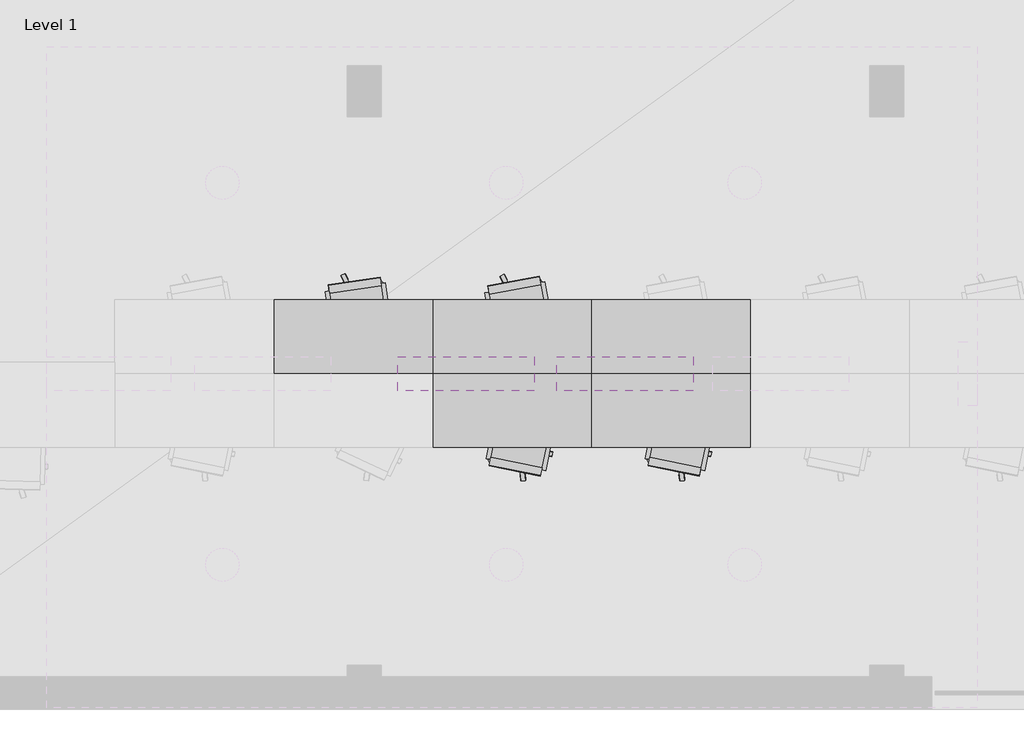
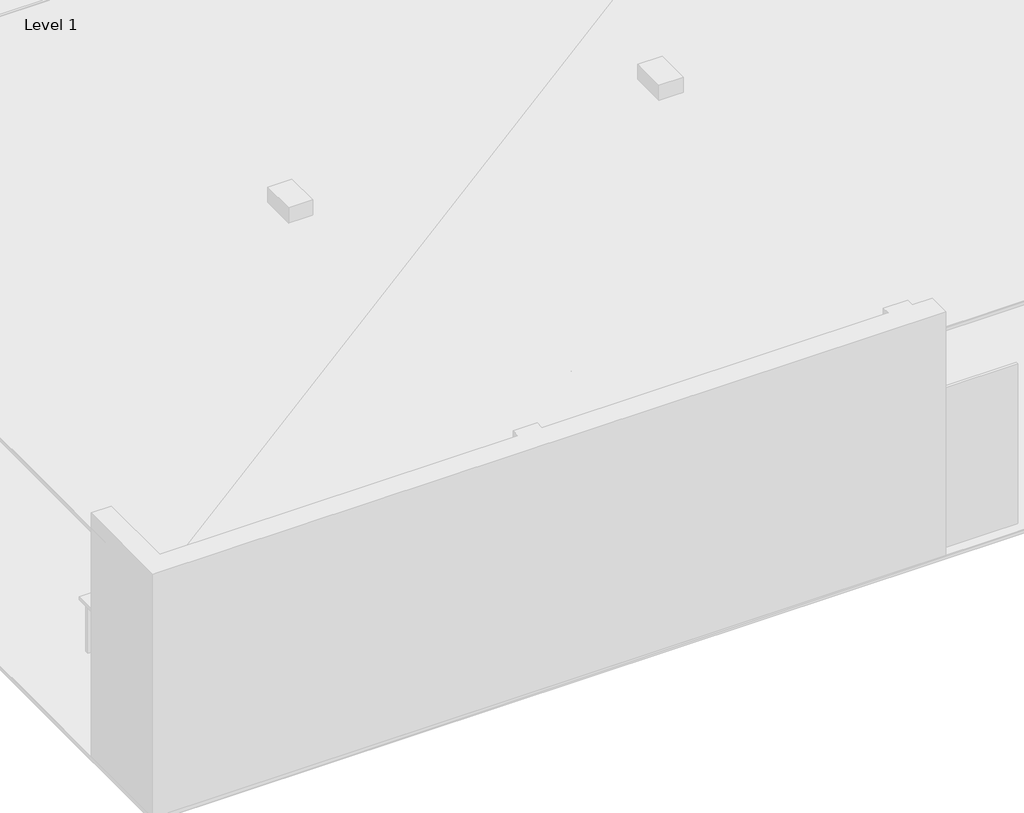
# One storey, part 2 of 14: 16 proxies.
"""IFC4 building model written with IfcOpenShell, lengths in millimetres."""

from ifc_helpers import new_model, si_unit, frame, origin, place, context, project, spatial, polyline, outline, extrude, element, save

model = new_model("IFC4")

# Units and contexts
model_context = context("Model", 3, world=origin())
ifc_project = project(units=[si_unit("LENGTHUNIT", "METRE", prefix="MILLI")], contexts=[model_context])

# Site, building, storey
site = spatial("IfcSite", under=ifc_project)
building = spatial("IfcBuilding", under=site)
storey = spatial("IfcBuildingStorey", under=building, Name="Level 1", Elevation=0.0)

# Proxies
placement = place(None, origin())
element("IfcBuildingElementProxy", 1, Name="Generic Models", at=placement, inside=storey, context=model_context, shape_type="SweptSolid", body=[
    extrude(outline(polyline([(5456.82621, 2957.967758), (6856.826305, 2957.967758), (6856.826305, 2307.967901), (5456.82621, 2307.967901), (5456.82621, 2957.967758)])), frame((0.0, 0.0, 709.999979), z_axis=(0.0, 0.0, 1.0), x_axis=(1.0, 0.0, 0.0)), (0.0, 0.0, 1.0), 40.000021),
])
element("IfcBuildingElementProxy", 2, Name="Generic Models", at=placement, inside=storey, context=model_context, shape_type="SweptSolid", body=[
    extrude(outline(polyline([(6856.826305, 2957.967758), (8256.826401, 2957.967758), (8256.826401, 2307.967901), (6856.826305, 2307.967901), (6856.826305, 2957.967758)])), frame((0.0, 0.0, 709.999979), z_axis=(0.0, 0.0, 1.0), x_axis=(1.0, 0.0, 0.0)), (0.0, 0.0, 1.0), 40.000021),
])
element("IfcBuildingElementProxy", 3, Name="Generic Models", at=placement, inside=storey, context=model_context, shape_type="SweptSolid", body=[
    extrude(outline(polyline([(4056.826115, 3607.967854), (5456.82621, 3607.967854), (5456.82621, 2957.967758), (4056.826115, 2957.967758), (4056.826115, 3607.967854)])), frame((0.0, 0.0, 709.999979), z_axis=(0.0, 0.0, 1.0), x_axis=(1.0, 0.0, 0.0)), (0.0, 0.0, 1.0), 40.000021),
])
element("IfcBuildingElementProxy", 4, Name="Generic Models", at=placement, inside=storey, context=model_context, shape_type="SweptSolid", body=[
    extrude(outline(polyline([(5456.82621, 3607.967854), (6856.826305, 3607.967854), (6856.826305, 2957.967758), (5456.82621, 2957.967758), (5456.82621, 3607.967854)])), frame((0.0, 0.0, 709.999979), z_axis=(0.0, 0.0, 1.0), x_axis=(1.0, 0.0, 0.0)), (0.0, 0.0, 1.0), 40.000021),
])
element("IfcBuildingElementProxy", 5, Name="Generic Models", at=placement, inside=storey, context=model_context, shape_type="SweptSolid", body=[
    extrude(outline(polyline([(6856.826305, 3607.967854), (8256.826401, 3607.967854), (8256.826401, 2957.967758), (6856.826305, 2957.967758), (6856.826305, 3607.967854)])), frame((0.0, 0.0, 709.999979), z_axis=(0.0, 0.0, 1.0), x_axis=(1.0, 0.0, 0.0)), (0.0, 0.0, 1.0), 40.000021),
])
element("IfcBuildingElementProxy", 6, Name="Generic Models", at=placement, inside=storey, context=model_context, shape_type="SweptSolid", body=[
    extrude(outline(polyline([(5152.470112, 2807.967901), (5152.470112, 3107.968092), (6352.469921, 3107.968092), (6352.469921, 2807.967901), (5152.470112, 2807.967901)])), frame((0.0, 0.0, 2910.000086), z_axis=(0.0, 0.0, 1.0), x_axis=(1.0, 0.0, 0.0)), (0.0, 0.0, 1.0), 39.999962),
])
element("IfcBuildingElementProxy", 7, Name="Generic Models", at=placement, inside=storey, context=model_context, shape_type="SweptSolid", body=[
    extrude(outline(polyline([(6552.470207, 2807.967901), (6552.470207, 3107.968092), (7752.470016, 3107.968092), (7752.470016, 2807.967901), (6552.470207, 2807.967901)])), frame((0.0, 0.0, 2910.000086), z_axis=(0.0, 0.0, 1.0), x_axis=(1.0, 0.0, 0.0)), (0.0, 0.0, 1.0), 39.999962),
])
element("IfcBuildingElementProxy", 8, Name="Generic Models", at=placement, inside=storey, context=model_context, shape_type="SweptSolid", body=[
    extrude(outline(polyline([(6804.326534, 2382.967949), (6759.326458, 2382.967949), (6759.326458, 2882.96771), (6804.326534, 2882.96771), (6804.326534, 2382.967949)])), frame((0.0, 0.0, 639.999986), z_axis=(0.0, 0.0, 1.0), x_axis=(1.0, 0.0, 0.0)), (0.0, 0.0, 1.0), 69.999993),
    extrude(outline(polyline([(5554.326057, 2382.967949), (5509.325981, 2382.967949), (5509.325981, 2882.96771), (5554.326057, 2882.96771), (5554.326057, 2382.967949)])), frame((0.0, 0.0, 639.999986), z_axis=(0.0, 0.0, 1.0), x_axis=(1.0, 0.0, 0.0)), (0.0, 0.0, 1.0), 69.999993),
    extrude(outline(polyline([(5531.826019, 2860.467672), (5531.826019, 2905.467749), (6781.826496, 2905.467749), (6781.826496, 2860.467672), (5531.826019, 2860.467672)])), frame((0.0, 0.0, 639.999986), z_axis=(0.0, 0.0, 1.0), x_axis=(1.0, 0.0, 0.0)), (0.0, 0.0, 1.0), 69.999993),
    extrude(outline(polyline([(5531.826019, 2360.467911), (5531.826019, 2405.467987), (6781.826496, 2405.467987), (6781.826496, 2360.467911), (5531.826019, 2360.467911)])), frame((0.0, 0.0, 639.999986), z_axis=(0.0, 0.0, 1.0), x_axis=(1.0, 0.0, 0.0)), (0.0, 0.0, 1.0), 69.999993),
    extrude(outline(polyline([(6757.451534, 2858.592749), (6757.451534, 2907.342672), (6806.201458, 2907.342672), (6806.201458, 2858.592749), (6757.451534, 2858.592749)])), frame((0.0, 0.0, 50.000001), z_axis=(0.0, 0.0, 1.0), x_axis=(1.0, 0.0, 0.0)), (0.0, 0.0, 1.0), 659.999978),
    extrude(outline(polyline([(6757.451534, 2358.592987), (6757.451534, 2407.342911), (6806.201458, 2407.342911), (6806.201458, 2358.592987), (6757.451534, 2358.592987)])), frame((0.0, 0.0, 50.000001), z_axis=(0.0, 0.0, 1.0), x_axis=(1.0, 0.0, 0.0)), (0.0, 0.0, 1.0), 659.999978),
    extrude(outline(polyline([(5507.451057, 2858.592749), (5507.451057, 2907.342672), (5556.200981, 2907.342672), (5556.200981, 2858.592749), (5507.451057, 2858.592749)])), frame((0.0, 0.0, 50.000001), z_axis=(0.0, 0.0, 1.0), x_axis=(1.0, 0.0, 0.0)), (0.0, 0.0, 1.0), 659.999978),
    extrude(outline(polyline([(5507.451057, 2358.592987), (5507.451057, 2407.342911), (5556.200981, 2407.342911), (5556.200981, 2358.592987), (5507.451057, 2358.592987)])), frame((0.0, 0.0, 50.000001), z_axis=(0.0, 0.0, 1.0), x_axis=(1.0, 0.0, 0.0)), (0.0, 0.0, 1.0), 659.999978),
])
element("IfcBuildingElementProxy", 9, Name="Generic Models", at=placement, inside=storey, context=model_context, shape_type="SweptSolid", body=[
    extrude(outline(polyline([(8204.32663, 2382.967949), (8159.326553, 2382.967949), (8159.326553, 2882.96771), (8204.32663, 2882.96771), (8204.32663, 2382.967949)])), frame((0.0, 0.0, 639.999986), z_axis=(0.0, 0.0, 1.0), x_axis=(1.0, 0.0, 0.0)), (0.0, 0.0, 1.0), 69.999993),
    extrude(outline(polyline([(6954.326153, 2382.967949), (6909.326077, 2382.967949), (6909.326077, 2882.96771), (6954.326153, 2882.96771), (6954.326153, 2382.967949)])), frame((0.0, 0.0, 639.999986), z_axis=(0.0, 0.0, 1.0), x_axis=(1.0, 0.0, 0.0)), (0.0, 0.0, 1.0), 69.999993),
    extrude(outline(polyline([(6931.826115, 2860.467672), (6931.826115, 2905.467749), (8181.826591, 2905.467749), (8181.826591, 2860.467672), (6931.826115, 2860.467672)])), frame((0.0, 0.0, 639.999986), z_axis=(0.0, 0.0, 1.0), x_axis=(1.0, 0.0, 0.0)), (0.0, 0.0, 1.0), 69.999993),
    extrude(outline(polyline([(6931.826115, 2360.467911), (6931.826115, 2405.467987), (8181.826591, 2405.467987), (8181.826591, 2360.467911), (6931.826115, 2360.467911)])), frame((0.0, 0.0, 639.999986), z_axis=(0.0, 0.0, 1.0), x_axis=(1.0, 0.0, 0.0)), (0.0, 0.0, 1.0), 69.999993),
    extrude(outline(polyline([(8157.45163, 2858.592749), (8157.45163, 2907.342672), (8206.201553, 2907.342672), (8206.201553, 2858.592749), (8157.45163, 2858.592749)])), frame((0.0, 0.0, 50.000001), z_axis=(0.0, 0.0, 1.0), x_axis=(1.0, 0.0, 0.0)), (0.0, 0.0, 1.0), 659.999978),
    extrude(outline(polyline([(8157.45163, 2358.592987), (8157.45163, 2407.342911), (8206.201553, 2407.342911), (8206.201553, 2358.592987), (8157.45163, 2358.592987)])), frame((0.0, 0.0, 50.000001), z_axis=(0.0, 0.0, 1.0), x_axis=(1.0, 0.0, 0.0)), (0.0, 0.0, 1.0), 659.999978),
    extrude(outline(polyline([(6907.451153, 2858.592749), (6907.451153, 2907.342672), (6956.201077, 2907.342672), (6956.201077, 2858.592749), (6907.451153, 2858.592749)])), frame((0.0, 0.0, 50.000001), z_axis=(0.0, 0.0, 1.0), x_axis=(1.0, 0.0, 0.0)), (0.0, 0.0, 1.0), 659.999978),
    extrude(outline(polyline([(6907.451153, 2358.592987), (6907.451153, 2407.342911), (6956.201077, 2407.342911), (6956.201077, 2358.592987), (6907.451153, 2358.592987)])), frame((0.0, 0.0, 50.000001), z_axis=(0.0, 0.0, 1.0), x_axis=(1.0, 0.0, 0.0)), (0.0, 0.0, 1.0), 659.999978),
])
element("IfcBuildingElementProxy", 10, Name="Generic Models", at=placement, inside=storey, context=model_context, shape_type="SweptSolid", body=[
    extrude(outline(polyline([(5404.326439, 3032.967806), (5359.326363, 3032.967806), (5359.326363, 3532.967806), (5404.326439, 3532.967806), (5404.326439, 3032.967806)])), frame((0.0, 0.0, 639.999986), z_axis=(0.0, 0.0, 1.0), x_axis=(1.0, 0.0, 0.0)), (0.0, 0.0, 1.0), 69.999993),
    extrude(outline(polyline([(4154.325962, 3032.967806), (4109.325886, 3032.967806), (4109.325886, 3532.967806), (4154.325962, 3532.967806), (4154.325962, 3032.967806)])), frame((0.0, 0.0, 639.999986), z_axis=(0.0, 0.0, 1.0), x_axis=(1.0, 0.0, 0.0)), (0.0, 0.0, 1.0), 69.999993),
    extrude(outline(polyline([(4131.825924, 3510.467768), (4131.825924, 3555.467844), (5381.826401, 3555.467844), (5381.826401, 3510.467768), (4131.825924, 3510.467768)])), frame((0.0, 0.0, 639.999986), z_axis=(0.0, 0.0, 1.0), x_axis=(1.0, 0.0, 0.0)), (0.0, 0.0, 1.0), 69.999993),
    extrude(outline(polyline([(4131.825924, 3010.467768), (4131.825924, 3055.467844), (5381.826401, 3055.467844), (5381.826401, 3010.467768), (4131.825924, 3010.467768)])), frame((0.0, 0.0, 639.999986), z_axis=(0.0, 0.0, 1.0), x_axis=(1.0, 0.0, 0.0)), (0.0, 0.0, 1.0), 69.999993),
    extrude(outline(polyline([(5357.451439, 3508.592844), (5357.451439, 3557.342768), (5406.201363, 3557.342768), (5406.201363, 3508.592844), (5357.451439, 3508.592844)])), frame((0.0, 0.0, 50.000001), z_axis=(0.0, 0.0, 1.0), x_axis=(1.0, 0.0, 0.0)), (0.0, 0.0, 1.0), 659.999978),
    extrude(outline(polyline([(5357.451439, 3008.592844), (5357.451439, 3057.342768), (5406.201363, 3057.342768), (5406.201363, 3008.592844), (5357.451439, 3008.592844)])), frame((0.0, 0.0, 50.000001), z_axis=(0.0, 0.0, 1.0), x_axis=(1.0, 0.0, 0.0)), (0.0, 0.0, 1.0), 659.999978),
    extrude(outline(polyline([(4107.450962, 3508.592844), (4107.450962, 3557.342768), (4156.200886, 3557.342768), (4156.200886, 3508.592844), (4107.450962, 3508.592844)])), frame((0.0, 0.0, 50.000001), z_axis=(0.0, 0.0, 1.0), x_axis=(1.0, 0.0, 0.0)), (0.0, 0.0, 1.0), 659.999978),
    extrude(outline(polyline([(4107.450962, 3008.592844), (4107.450962, 3057.342768), (4156.200886, 3057.342768), (4156.200886, 3008.592844), (4107.450962, 3008.592844)])), frame((0.0, 0.0, 50.000001), z_axis=(0.0, 0.0, 1.0), x_axis=(1.0, 0.0, 0.0)), (0.0, 0.0, 1.0), 659.999978),
])
element("IfcBuildingElementProxy", 11, Name="Generic Models", at=placement, inside=storey, context=model_context, shape_type="SweptSolid", body=[
    extrude(outline(polyline([(6804.326534, 3032.967806), (6759.326458, 3032.967806), (6759.326458, 3532.967806), (6804.326534, 3532.967806), (6804.326534, 3032.967806)])), frame((0.0, 0.0, 639.999986), z_axis=(0.0, 0.0, 1.0), x_axis=(1.0, 0.0, 0.0)), (0.0, 0.0, 1.0), 69.999993),
    extrude(outline(polyline([(5554.326057, 3032.967806), (5509.325981, 3032.967806), (5509.325981, 3532.967806), (5554.326057, 3532.967806), (5554.326057, 3032.967806)])), frame((0.0, 0.0, 639.999986), z_axis=(0.0, 0.0, 1.0), x_axis=(1.0, 0.0, 0.0)), (0.0, 0.0, 1.0), 69.999993),
    extrude(outline(polyline([(5531.826019, 3510.467768), (5531.826019, 3555.467844), (6781.826496, 3555.467844), (6781.826496, 3510.467768), (5531.826019, 3510.467768)])), frame((0.0, 0.0, 639.999986), z_axis=(0.0, 0.0, 1.0), x_axis=(1.0, 0.0, 0.0)), (0.0, 0.0, 1.0), 69.999993),
    extrude(outline(polyline([(5531.826019, 3010.467768), (5531.826019, 3055.467844), (6781.826496, 3055.467844), (6781.826496, 3010.467768), (5531.826019, 3010.467768)])), frame((0.0, 0.0, 639.999986), z_axis=(0.0, 0.0, 1.0), x_axis=(1.0, 0.0, 0.0)), (0.0, 0.0, 1.0), 69.999993),
    extrude(outline(polyline([(6757.451534, 3508.592844), (6757.451534, 3557.342768), (6806.201458, 3557.342768), (6806.201458, 3508.592844), (6757.451534, 3508.592844)])), frame((0.0, 0.0, 50.000001), z_axis=(0.0, 0.0, 1.0), x_axis=(1.0, 0.0, 0.0)), (0.0, 0.0, 1.0), 659.999978),
    extrude(outline(polyline([(6757.451534, 3008.592844), (6757.451534, 3057.342768), (6806.201458, 3057.342768), (6806.201458, 3008.592844), (6757.451534, 3008.592844)])), frame((0.0, 0.0, 50.000001), z_axis=(0.0, 0.0, 1.0), x_axis=(1.0, 0.0, 0.0)), (0.0, 0.0, 1.0), 659.999978),
    extrude(outline(polyline([(5507.451057, 3508.592844), (5507.451057, 3557.342768), (5556.200981, 3557.342768), (5556.200981, 3508.592844), (5507.451057, 3508.592844)])), frame((0.0, 0.0, 50.000001), z_axis=(0.0, 0.0, 1.0), x_axis=(1.0, 0.0, 0.0)), (0.0, 0.0, 1.0), 659.999978),
    extrude(outline(polyline([(5507.451057, 3008.592844), (5507.451057, 3057.342768), (5556.200981, 3057.342768), (5556.200981, 3008.592844), (5507.451057, 3008.592844)])), frame((0.0, 0.0, 50.000001), z_axis=(0.0, 0.0, 1.0), x_axis=(1.0, 0.0, 0.0)), (0.0, 0.0, 1.0), 659.999978),
])
element("IfcBuildingElementProxy", 12, Name="Generic Models", at=placement, inside=storey, context=model_context, shape_type="SweptSolid", body=[
    extrude(outline(polyline([(8204.32663, 3032.967806), (8159.326553, 3032.967806), (8159.326553, 3532.967806), (8204.32663, 3532.967806), (8204.32663, 3032.967806)])), frame((0.0, 0.0, 639.999986), z_axis=(0.0, 0.0, 1.0), x_axis=(1.0, 0.0, 0.0)), (0.0, 0.0, 1.0), 69.999993),
    extrude(outline(polyline([(6954.326153, 3032.967806), (6909.326077, 3032.967806), (6909.326077, 3532.967806), (6954.326153, 3532.967806), (6954.326153, 3032.967806)])), frame((0.0, 0.0, 639.999986), z_axis=(0.0, 0.0, 1.0), x_axis=(1.0, 0.0, 0.0)), (0.0, 0.0, 1.0), 69.999993),
    extrude(outline(polyline([(6931.826115, 3510.467768), (6931.826115, 3555.467844), (8181.826591, 3555.467844), (8181.826591, 3510.467768), (6931.826115, 3510.467768)])), frame((0.0, 0.0, 639.999986), z_axis=(0.0, 0.0, 1.0), x_axis=(1.0, 0.0, 0.0)), (0.0, 0.0, 1.0), 69.999993),
    extrude(outline(polyline([(6931.826115, 3010.467768), (6931.826115, 3055.467844), (8181.826591, 3055.467844), (8181.826591, 3010.467768), (6931.826115, 3010.467768)])), frame((0.0, 0.0, 639.999986), z_axis=(0.0, 0.0, 1.0), x_axis=(1.0, 0.0, 0.0)), (0.0, 0.0, 1.0), 69.999993),
    extrude(outline(polyline([(8157.45163, 3508.592844), (8157.45163, 3557.342768), (8206.201553, 3557.342768), (8206.201553, 3508.592844), (8157.45163, 3508.592844)])), frame((0.0, 0.0, 50.000001), z_axis=(0.0, 0.0, 1.0), x_axis=(1.0, 0.0, 0.0)), (0.0, 0.0, 1.0), 659.999978),
    extrude(outline(polyline([(8157.45163, 3008.592844), (8157.45163, 3057.342768), (8206.201553, 3057.342768), (8206.201553, 3008.592844), (8157.45163, 3008.592844)])), frame((0.0, 0.0, 50.000001), z_axis=(0.0, 0.0, 1.0), x_axis=(1.0, 0.0, 0.0)), (0.0, 0.0, 1.0), 659.999978),
    extrude(outline(polyline([(6907.451153, 3508.592844), (6907.451153, 3557.342768), (6956.201077, 3557.342768), (6956.201077, 3508.592844), (6907.451153, 3508.592844)])), frame((0.0, 0.0, 50.000001), z_axis=(0.0, 0.0, 1.0), x_axis=(1.0, 0.0, 0.0)), (0.0, 0.0, 1.0), 659.999978),
    extrude(outline(polyline([(6907.451153, 3008.592844), (6907.451153, 3057.342768), (6956.201077, 3057.342768), (6956.201077, 3008.592844), (6907.451153, 3008.592844)])), frame((0.0, 0.0, 50.000001), z_axis=(0.0, 0.0, 1.0), x_axis=(1.0, 0.0, 0.0)), (0.0, 0.0, 1.0), 659.999978),
])
element("IfcBuildingElementProxy", 13, Name="Generic Models", at=placement, inside=storey, context=model_context, shape_type="SweptSolid", body=[
    extrude(outline(polyline([(4565.880775, 3532.722712), (4570.228577, 3503.03936), (4540.545464, 3498.69132), (4536.197662, 3528.374672), (4565.880775, 3532.722712)])), frame((0.0, 0.0, 439.999998), z_axis=(0.0, 0.0, 1.0), x_axis=(1.0, 0.0, 0.0)), (0.0, 0.0, 1.0), 199.999988),
    extrude(outline(polyline([(4545.889378, 3686.448336), (4595.16716, 3350.03829), (4560.536861, 3344.965696), (4511.259079, 3681.375742), (4545.889378, 3686.448336)])), frame((0.0, 0.0, 612.500012), z_axis=(0.0, 0.0, 1.0), x_axis=(1.0, 0.0, 0.0)), (0.0, 0.0, 1.0), 34.999967),
    extrude(outline(polyline([(4607.666969, 3713.184357), (4611.290455, 3688.448191), (4586.55405, 3684.824944), (4582.931042, 3709.560871), (4607.666969, 3713.184357)])), frame((0.0, 0.0, 460.000008), z_axis=(0.0, 0.0, 1.0), x_axis=(1.0, 0.0, 0.0)), (0.0, 0.0, 1.0), 400.000006),
    extrude(outline(polyline([(5060.601234, 3605.189562), (5064.949512, 3575.506449), (5035.266399, 3571.158409), (5030.918121, 3600.841522), (5060.601234, 3605.189562)])), frame((0.0, 0.0, 439.999998), z_axis=(0.0, 0.0, 1.0), x_axis=(1.0, 0.0, 0.0)), (0.0, 0.0, 1.0), 199.999988),
    extrude(outline(polyline([(5040.610313, 3758.915424), (5089.887619, 3422.505379), (5055.25732, 3417.432547), (5005.980015, 3753.842592), (5040.610313, 3758.915424)])), frame((0.0, 0.0, 612.500012), z_axis=(0.0, 0.0, 1.0), x_axis=(1.0, 0.0, 0.0)), (0.0, 0.0, 1.0), 34.999967),
    extrude(outline(polyline([(4963.865757, 3765.360594), (4967.489243, 3740.624428), (4942.753315, 3737.001181), (4939.129829, 3761.737108), (4963.865757, 3765.360594)])), frame((0.0, 0.0, 460.000008), z_axis=(0.0, 0.0, 1.0), x_axis=(1.0, 0.0, 0.0)), (0.0, 0.0, 1.0), 400.000006),
    extrude(outline(polyline([(4996.259689, 3802.95229), (5006.404877, 3733.691454), (4551.261902, 3667.02199), (4541.116714, 3736.282825), (4996.259689, 3802.95229)])), frame((0.0, 0.0, 460.000008), z_axis=(0.0, 0.0, 1.0), x_axis=(1.0, 0.0, 0.0)), (0.0, 0.0, 1.0), 479.99999),
    extrude(outline(polyline([(4995.534897, 3807.899714), (5056.406975, 3392.334223), (4601.264, 3325.66452), (4540.391922, 3741.230011), (4995.534897, 3807.899714)])), frame((0.0, 0.0, 400.000006), z_axis=(0.0, 0.0, 1.0), x_axis=(1.0, 0.0, 0.0)), (0.0, 0.0, 1.0), 69.999993),
    extrude(outline(polyline([(4815.899372, 3536.471128), (4798.399448, 3531.78215), (4780.899525, 3536.471128), (4768.088341, 3549.282074), (4763.399601, 3566.781998), (4768.088341, 3584.28216), (4780.899525, 3597.093105), (4798.399448, 3601.782084), (4815.899372, 3597.093105), (4828.710556, 3584.28216), (4833.399296, 3566.781998), (4828.710556, 3549.282074), (4815.899372, 3536.471128)])), frame((0.0, 0.0, 115.000002), z_axis=(0.0, 0.0, 1.0), x_axis=(1.0, 0.0, 0.0)), (0.0, 0.0, 1.0), 280.000009),
    extrude(outline(polyline([(4713.21106, 3789.617062), (4672.88065, 3769.655228), (4648.4828, 3818.947792), (4688.81321, 3838.909626), (4713.21106, 3789.617062)])), frame((0.0, 0.0, 35.0), z_axis=(0.0, 0.0, 1.0), x_axis=(1.0, 0.0, 0.0)), (0.0, 0.0, 1.0), 59.999999),
    extrude(outline(polyline([(4816.301346, 3570.063829), (4784.933567, 3554.538012), (4651.854992, 3823.406458), (4683.223248, 3838.932037), (4816.301346, 3570.063829)])), frame((0.0, 0.0, 82.500003), z_axis=(0.0, 0.0, 1.0), x_axis=(1.0, 0.0, 0.0)), (0.0, 0.0, 1.0), 34.999997),
    extrude(outline(polyline([(4984.003544, 3716.660976), (4952.555656, 3748.848915), (4991.896629, 3787.284613), (5023.34404, 3755.096912), (4984.003544, 3716.660976)])), frame((0.0, 0.0, 35.0), z_axis=(0.0, 0.0, 1.0), x_axis=(1.0, 0.0, 0.0)), (0.0, 0.0, 1.0), 59.999999),
    extrude(outline(polyline([(4807.052612, 3550.770521), (4782.59325, 3575.805426), (4997.179031, 3785.455465), (5021.637917, 3760.420322), (4807.052612, 3550.770521)])), frame((0.0, 0.0, 82.500003), z_axis=(0.0, 0.0, 1.0), x_axis=(1.0, 0.0, 0.0)), (0.0, 0.0, 1.0), 34.999997),
    extrude(outline(polyline([(4998.297691, 3436.577559), (5019.192219, 3476.432323), (5067.903519, 3450.894594), (5047.008991, 3411.039591), (4998.297691, 3436.577559)])), frame((0.0, 0.0, 35.0), z_axis=(0.0, 0.0, 1.0), x_axis=(1.0, 0.0, 0.0)), (0.0, 0.0, 1.0), 59.999999),
    extrude(outline(polyline([(4785.84528, 3553.604603), (4802.096844, 3584.602833), (5067.79623, 3445.305347), (5051.544666, 3414.307117), (4785.84528, 3553.604603)])), frame((0.0, 0.0, 82.500003), z_axis=(0.0, 0.0, 1.0), x_axis=(1.0, 0.0, 0.0)), (0.0, 0.0, 1.0), 34.999997),
    extrude(outline(polyline([(4736.339569, 3336.432219), (4780.700684, 3328.876257), (4771.465302, 3274.657011), (4727.104187, 3282.213211), (4736.339569, 3336.432219)])), frame((0.0, 0.0, 35.0), z_axis=(0.0, 0.0, 1.0), x_axis=(1.0, 0.0, 0.0)), (0.0, 0.0, 1.0), 59.999999),
    extrude(outline(polyline([(4781.987667, 3574.649572), (4816.49065, 3568.772554), (4766.116619, 3273.032188), (4731.613159, 3278.909206), (4781.987667, 3574.649572)])), frame((0.0, 0.0, 82.500003), z_axis=(0.0, 0.0, 1.0), x_axis=(1.0, 0.0, 0.0)), (0.0, 0.0, 1.0), 34.999997),
    extrude(outline(polyline([(4560.146332, 3554.62265), (4566.668034, 3510.09798), (4512.248993, 3502.126455), (4505.726814, 3546.651363), (4560.146332, 3554.62265)])), frame((0.0, 0.0, 35.0), z_axis=(0.0, 0.0, 1.0), x_axis=(1.0, 0.0, 0.0)), (0.0, 0.0, 1.0), 59.999999),
    extrude(outline(polyline([(4800.810337, 3584.821939), (4805.882931, 3550.191641), (4509.050369, 3506.711483), (4503.977776, 3541.341782), (4800.810337, 3584.821939)])), frame((0.0, 0.0, 82.500003), z_axis=(0.0, 0.0, 1.0), x_axis=(1.0, 0.0, 0.0)), (0.0, 0.0, 1.0), 34.999997),
])
element("IfcBuildingElementProxy", 14, Name="Generic Models", at=placement, inside=storey, context=model_context, shape_type="SweptSolid", body=[
    extrude(outline(polyline([(5978.252411, 3524.032831), (5983.709812, 3494.5333), (5954.210281, 3489.076138), (5948.75288, 3518.57543), (5978.252411, 3524.032831)])), frame((0.0, 0.0, 439.999998), z_axis=(0.0, 0.0, 1.0), x_axis=(1.0, 0.0, 0.0)), (0.0, 0.0, 1.0), 199.999988),
    extrude(outline(polyline([(5952.514648, 3676.90134), (6014.364719, 3342.574358), (5979.948521, 3336.20739), (5918.09845, 3670.534372), (5952.514648, 3676.90134)])), frame((0.0, 0.0, 612.500012), z_axis=(0.0, 0.0, 1.0), x_axis=(1.0, 0.0, 0.0)), (0.0, 0.0, 1.0), 34.999967),
    extrude(outline(polyline([(6013.246536, 3705.933571), (6017.794132, 3681.350708), (5993.211269, 3676.803112), (5988.663673, 3701.385975), (6013.246536, 3705.933571)])), frame((0.0, 0.0, 460.000008), z_axis=(0.0, 0.0, 1.0), x_axis=(1.0, 0.0, 0.0)), (0.0, 0.0, 1.0), 400.000006),
    extrude(outline(polyline([(6469.910145, 3614.988804), (6475.367069, 3585.489273), (6445.868015, 3580.031872), (6440.410614, 3609.531403), (6469.910145, 3614.988804)])), frame((0.0, 0.0, 439.999998), z_axis=(0.0, 0.0, 1.0), x_axis=(1.0, 0.0, 0.0)), (0.0, 0.0, 1.0), 199.999988),
    extrude(outline(polyline([(6444.171906, 3767.857313), (6506.021976, 3433.530331), (6471.605778, 3427.163363), (6409.755707, 3761.490345), (6444.171906, 3767.857313)])), frame((0.0, 0.0, 612.500012), z_axis=(0.0, 0.0, 1.0), x_axis=(1.0, 0.0, 0.0)), (0.0, 0.0, 1.0), 34.999967),
    extrude(outline(polyline([(6367.239952, 3771.421909), (6371.787548, 3746.839046), (6347.204685, 3742.291212), (6342.657089, 3766.874075), (6367.239952, 3771.421909)])), frame((0.0, 0.0, 460.000008), z_axis=(0.0, 0.0, 1.0), x_axis=(1.0, 0.0, 0.0)), (0.0, 0.0, 1.0), 400.000006),
    extrude(outline(polyline([(6398.201942, 3810.201406), (6410.935879, 3741.369247), (5958.611012, 3657.68981), (5945.877075, 3726.521969), (6398.201942, 3810.201406)])), frame((0.0, 0.0, 460.000008), z_axis=(0.0, 0.0, 1.0), x_axis=(1.0, 0.0, 0.0)), (0.0, 0.0, 1.0), 479.99999),
    extrude(outline(polyline([(6397.292614, 3815.118074), (6473.695278, 3402.125835), (6021.370411, 3318.446159), (5944.967747, 3731.438398), (6397.292614, 3815.118074)])), frame((0.0, 0.0, 400.000006), z_axis=(0.0, 0.0, 1.0), x_axis=(1.0, 0.0, 0.0)), (0.0, 0.0, 1.0), 69.999993),
    extrude(outline(polyline([(6226.831436, 3536.471128), (6209.331512, 3531.78215), (6191.831589, 3536.471128), (6179.020405, 3549.282074), (6174.331665, 3566.781998), (6179.020405, 3584.28216), (6191.831589, 3597.093105), (6209.331512, 3601.782084), (6226.831436, 3597.093105), (6239.64262, 3584.28216), (6244.33136, 3566.781998), (6239.64262, 3549.282074), (6226.831436, 3536.471128)])), frame((0.0, 0.0, 115.000002), z_axis=(0.0, 0.0, 1.0), x_axis=(1.0, 0.0, 0.0)), (0.0, 0.0, 1.0), 280.000009),
    extrude(outline(polyline([(6115.851879, 3786.267996), (6076.298237, 3764.808893), (6050.070286, 3813.152552), (6089.623928, 3834.611654), (6115.851879, 3786.267996)])), frame((0.0, 0.0, 35.0), z_axis=(0.0, 0.0, 1.0), x_axis=(1.0, 0.0, 0.0)), (0.0, 0.0, 1.0), 59.999999),
    extrude(outline(polyline([(6227.097988, 3570.732355), (6196.333885, 3554.042101), (6053.273201, 3817.734241), (6084.036827, 3834.424734), (6227.097988, 3570.732355)])), frame((0.0, 0.0, 82.500003), z_axis=(0.0, 0.0, 1.0), x_axis=(1.0, 0.0, 0.0)), (0.0, 0.0, 1.0), 34.999997),
    extrude(outline(polyline([(6389.18829, 3723.511457), (6356.556416, 3754.498005), (6394.429207, 3794.381142), (6427.061081, 3763.394594), (6389.18829, 3723.511457)])), frame((0.0, 0.0, 35.0), z_axis=(0.0, 0.0, 1.0), x_axis=(1.0, 0.0, 0.0)), (0.0, 0.0, 1.0), 59.999999),
    extrude(outline(polyline([(6218.578815, 3551.105976), (6193.198681, 3575.206757), (6399.776459, 3792.751074), (6425.156593, 3768.650293), (6218.578815, 3551.105976)])), frame((0.0, 0.0, 82.500003), z_axis=(0.0, 0.0, 1.0), x_axis=(1.0, 0.0, 0.0)), (0.0, 0.0, 1.0), 34.999997),
    extrude(outline(polyline([(6413.968563, 3444.160223), (6433.354855, 3484.77006), (6482.989311, 3461.075783), (6463.60302, 3420.465708), (6413.968563, 3444.160223)])), frame((0.0, 0.0, 35.0), z_axis=(0.0, 0.0, 1.0), x_axis=(1.0, 0.0, 0.0)), (0.0, 0.0, 1.0), 59.999999),
    extrude(outline(polyline([(6197.27993, 3553.143501), (6212.358475, 3584.728956), (6483.091354, 3455.486536), (6468.013287, 3423.900843), (6197.27993, 3553.143501)])), frame((0.0, 0.0, 82.500003), z_axis=(0.0, 0.0, 1.0), x_axis=(1.0, 0.0, 0.0)), (0.0, 0.0, 1.0), 34.999997),
    extrude(outline(polyline([(6155.947685, 3334.268332), (6200.56057, 3328.380108), (6193.363667, 3273.852825), (6148.750782, 3279.741287), (6155.947685, 3334.268332)])), frame((0.0, 0.0, 35.0), z_axis=(0.0, 0.0, 1.0), x_axis=(1.0, 0.0, 0.0)), (0.0, 0.0, 1.0), 59.999999),
    extrude(outline(polyline([(6192.636013, 3574.028969), (6227.335453, 3569.449186), (6188.079357, 3272.028685), (6153.380394, 3276.608467), (6192.636013, 3574.028969)])), frame((0.0, 0.0, 82.500003), z_axis=(0.0, 0.0, 1.0), x_axis=(1.0, 0.0, 0.0)), (0.0, 0.0, 1.0), 34.999997),
    extrude(outline(polyline([(5971.701145, 3545.702696), (5979.887486, 3501.4534), (5925.805092, 3491.448402), (5917.618752, 3535.69746), (5971.701145, 3545.702696)])), frame((0.0, 0.0, 35.0), z_axis=(0.0, 0.0, 1.0), x_axis=(1.0, 0.0, 0.0)), (0.0, 0.0, 1.0), 59.999999),
    extrude(outline(polyline([(6211.064816, 3584.899664), (6217.431545, 3550.483704), (5922.437191, 3495.910168), (5916.069984, 3530.326128), (6211.064816, 3584.899664)])), frame((0.0, 0.0, 82.500003), z_axis=(0.0, 0.0, 1.0), x_axis=(1.0, 0.0, 0.0)), (0.0, 0.0, 1.0), 34.999997),
])
element("IfcBuildingElementProxy", 15, Name="Generic Models", at=placement, inside=storey, context=model_context, shape_type="SweptSolid", body=[
    extrude(outline(polyline([(6453.407764, 2260.814905), (6459.402561, 2290.20977), (6488.797665, 2284.214973), (6482.802868, 2254.820108), (6453.407764, 2260.814905)])), frame((0.0, 0.0, 439.999998), z_axis=(0.0, 0.0, 1.0), x_axis=(1.0, 0.0, 0.0)), (0.0, 0.0, 1.0), 199.999988),
    extrude(outline(polyline([(6419.984341, 2109.440804), (6487.92696, 2442.583084), (6522.221088, 2435.589075), (6454.278469, 2102.446795), (6419.984341, 2109.440804)])), frame((0.0, 0.0, 612.500012), z_axis=(0.0, 0.0, 1.0), x_axis=(1.0, 0.0, 0.0)), (0.0, 0.0, 1.0), 34.999967),
    extrude(outline(polyline([(6352.798462, 2105.282784), (6357.794285, 2129.778624), (6382.289886, 2124.782801), (6377.294064, 2100.287199), (6352.798462, 2105.282784)])), frame((0.0, 0.0, 460.000008), z_axis=(0.0, 0.0, 1.0), x_axis=(1.0, 0.0, 0.0)), (0.0, 0.0, 1.0), 400.000006),
    extrude(outline(polyline([(5963.492393, 2360.730648), (5969.487667, 2390.125513), (5998.882294, 2384.130716), (5992.887497, 2354.735851), (5963.492393, 2360.730648)])), frame((0.0, 0.0, 439.999998), z_axis=(0.0, 0.0, 1.0), x_axis=(1.0, 0.0, 0.0)), (0.0, 0.0, 1.0), 199.999988),
    extrude(outline(polyline([(5930.06897, 2209.356546), (5998.012066, 2542.498827), (6032.305717, 2535.504818), (5964.363098, 2202.362537), (5930.06897, 2209.356546)])), frame((0.0, 0.0, 612.500012), z_axis=(0.0, 0.0, 1.0), x_axis=(1.0, 0.0, 0.0)), (0.0, 0.0, 1.0), 34.999967),
    extrude(outline(polyline([(6000.059605, 2177.222252), (6005.054951, 2201.717854), (6029.551029, 2196.722269), (6024.555206, 2172.226429), (6000.059605, 2177.222252)])), frame((0.0, 0.0, 460.000008), z_axis=(0.0, 0.0, 1.0), x_axis=(1.0, 0.0, 0.0)), (0.0, 0.0, 1.0), 400.000006),
    extrude(outline(polyline([(5956.821442, 2152.87137), (5970.80946, 2221.459627), (6421.5312, 2129.537106), (6407.543182, 2060.948849), (5956.821442, 2152.87137)])), frame((0.0, 0.0, 460.000008), z_axis=(0.0, 0.0, 1.0), x_axis=(1.0, 0.0, 0.0)), (0.0, 0.0, 1.0), 479.99999),
    extrude(outline(polyline([(5955.821991, 2147.972345), (6039.751053, 2559.500933), (6490.47327, 2467.578411), (6406.544209, 2056.049824), (5955.821991, 2147.972345)])), frame((0.0, 0.0, 400.000006), z_axis=(0.0, 0.0, 1.0), x_axis=(1.0, 0.0, 0.0)), (0.0, 0.0, 1.0), 69.999993),
    extrude(outline(polyline([(6240.647793, 2277.46439), (6223.147392, 2272.775412), (6205.647469, 2277.46439), (6192.836761, 2290.275335), (6188.147545, 2307.775497), (6192.836761, 2325.275421), (6205.647469, 2338.086367), (6223.147392, 2342.775345), (6240.647793, 2338.086367), (6253.4585, 2325.275421), (6258.147717, 2307.775497), (6253.4585, 2290.275335), (6240.647793, 2277.46439)])), frame((0.0, 0.0, 115.000002), z_axis=(0.0, 0.0, 1.0), x_axis=(1.0, 0.0, 0.0)), (0.0, 0.0, 1.0), 280.000009),
    extrude(outline(polyline([(6227.565289, 2069.252968), (6272.278309, 2074.3258), (6278.478622, 2019.676447), (6233.765602, 2014.603376), (6227.565289, 2069.252968)])), frame((0.0, 0.0, 35.0), z_axis=(0.0, 0.0, 1.0), x_axis=(1.0, 0.0, 0.0)), (0.0, 0.0, 1.0), 59.999999),
    extrude(outline(polyline([(6205.195427, 2310.77075), (6239.972591, 2314.716339), (6273.792267, 2016.628742), (6239.015579, 2012.683153), (6205.195427, 2310.77075)])), frame((0.0, 0.0, 82.500003), z_axis=(0.0, 0.0, 1.0), x_axis=(1.0, 0.0, 0.0)), (0.0, 0.0, 1.0), 34.999997),
    extrude(outline(polyline([(5997.664452, 2229.866505), (6016.3064, 2188.909531), (5966.247559, 2166.125059), (5947.60561, 2207.082033), (5997.664452, 2229.866505)])), frame((0.0, 0.0, 35.0), z_axis=(0.0, 0.0, 1.0), x_axis=(1.0, 0.0, 0.0)), (0.0, 0.0, 1.0), 59.999999),
    extrude(outline(polyline([(6220.448971, 2325.774431), (6234.948158, 2293.918848), (5961.900711, 2169.640064), (5947.401524, 2201.495647), (6220.448971, 2325.774431)])), frame((0.0, 0.0, 82.500003), z_axis=(0.0, 0.0, 1.0), x_axis=(1.0, 0.0, 0.0)), (0.0, 0.0, 1.0), 34.999997),
    extrude(outline(polyline([(6079.373837, 2498.147488), (6046.181679, 2467.761755), (6009.043694, 2508.32963), (6042.235374, 2538.715363), (6079.373837, 2498.147488)])), frame((0.0, 0.0, 35.0), z_axis=(0.0, 0.0, 1.0), x_axis=(1.0, 0.0, 0.0)), (0.0, 0.0, 1.0), 59.999999),
    extrude(outline(polyline([(6239.431858, 2315.90414), (6213.615894, 2292.27066), (6011.043549, 2513.549805), (6036.859512, 2537.183285), (6239.431858, 2315.90414)])), frame((0.0, 0.0, 82.500003), z_axis=(0.0, 0.0, 1.0), x_axis=(1.0, 0.0, 0.0)), (0.0, 0.0, 1.0), 34.999997),
    extrude(outline(polyline([(6359.773636, 2503.340721), (6320.618153, 2525.518417), (6347.723961, 2573.374987), (6386.879921, 2551.197529), (6359.773636, 2503.340721)])), frame((0.0, 0.0, 35.0), z_axis=(0.0, 0.0, 1.0), x_axis=(1.0, 0.0, 0.0)), (0.0, 0.0, 1.0), 59.999999),
    extrude(outline(polyline([(6235.910416, 2294.800043), (6205.456257, 2312.049389), (6353.30677, 2573.086262), (6383.761406, 2555.836916), (6235.910416, 2294.800043)])), frame((0.0, 0.0, 82.500003), z_axis=(0.0, 0.0, 1.0), x_axis=(1.0, 0.0, 0.0)), (0.0, 0.0, 1.0), 34.999997),
    extrude(outline(polyline([(6451.361179, 2238.269329), (6460.353374, 2282.361507), (6514.24408, 2271.370888), (6505.251884, 2227.278471), (6451.361179, 2238.269329)])), frame((0.0, 0.0, 35.0), z_axis=(0.0, 0.0, 1.0), x_axis=(1.0, 0.0, 0.0)), (0.0, 0.0, 1.0), 59.999999),
    extrude(outline(polyline([(6214.751244, 2291.627407), (6221.745491, 2325.921535), (6515.694618, 2265.972137), (6508.700371, 2231.678009), (6214.751244, 2291.627407)])), frame((0.0, 0.0, 82.500003), z_axis=(0.0, 0.0, 1.0), x_axis=(1.0, 0.0, 0.0)), (0.0, 0.0, 1.0), 34.999997),
])
element("IfcBuildingElementProxy", 16, Name="Generic Models", at=placement, inside=storey, context=model_context, shape_type="SweptSolid", body=[
    extrude(outline(polyline([(7853.40786, 2260.814905), (7859.402657, 2290.20977), (7888.79776, 2284.214973), (7882.802963, 2254.820108), (7853.40786, 2260.814905)])), frame((0.0, 0.0, 439.999998), z_axis=(0.0, 0.0, 1.0), x_axis=(1.0, 0.0, 0.0)), (0.0, 0.0, 1.0), 199.999988),
    extrude(outline(polyline([(7819.984436, 2109.440804), (7887.927055, 2442.583084), (7922.221184, 2435.589075), (7854.278564, 2102.446795), (7819.984436, 2109.440804)])), frame((0.0, 0.0, 612.500012), z_axis=(0.0, 0.0, 1.0), x_axis=(1.0, 0.0, 0.0)), (0.0, 0.0, 1.0), 34.999967),
    extrude(outline(polyline([(7752.798557, 2105.282784), (7757.79438, 2129.778624), (7782.289982, 2124.782801), (7777.294159, 2100.287199), (7752.798557, 2105.282784)])), frame((0.0, 0.0, 460.000008), z_axis=(0.0, 0.0, 1.0), x_axis=(1.0, 0.0, 0.0)), (0.0, 0.0, 1.0), 400.000006),
    extrude(outline(polyline([(7363.492489, 2360.730648), (7369.487762, 2390.125513), (7398.882389, 2384.130716), (7392.887592, 2354.735851), (7363.492489, 2360.730648)])), frame((0.0, 0.0, 439.999998), z_axis=(0.0, 0.0, 1.0), x_axis=(1.0, 0.0, 0.0)), (0.0, 0.0, 1.0), 199.999988),
    extrude(outline(polyline([(7330.069065, 2209.356546), (7398.012161, 2542.498827), (7432.305813, 2535.504818), (7364.363194, 2202.362537), (7330.069065, 2209.356546)])), frame((0.0, 0.0, 612.500012), z_axis=(0.0, 0.0, 1.0), x_axis=(1.0, 0.0, 0.0)), (0.0, 0.0, 1.0), 34.999967),
    extrude(outline(polyline([(7400.0597, 2177.222252), (7405.055046, 2201.717854), (7429.551125, 2196.722269), (7424.555302, 2172.226429), (7400.0597, 2177.222252)])), frame((0.0, 0.0, 460.000008), z_axis=(0.0, 0.0, 1.0), x_axis=(1.0, 0.0, 0.0)), (0.0, 0.0, 1.0), 400.000006),
    extrude(outline(polyline([(7356.821537, 2152.87137), (7370.809555, 2221.459627), (7821.531296, 2129.537106), (7807.543278, 2060.948849), (7356.821537, 2152.87137)])), frame((0.0, 0.0, 460.000008), z_axis=(0.0, 0.0, 1.0), x_axis=(1.0, 0.0, 0.0)), (0.0, 0.0, 1.0), 479.99999),
    extrude(outline(polyline([(7355.822086, 2147.972345), (7439.751148, 2559.500933), (7890.473366, 2467.578411), (7806.544304, 2056.049824), (7355.822086, 2147.972345)])), frame((0.0, 0.0, 400.000006), z_axis=(0.0, 0.0, 1.0), x_axis=(1.0, 0.0, 0.0)), (0.0, 0.0, 1.0), 69.999993),
    extrude(outline(polyline([(7640.647888, 2277.46439), (7623.147964, 2272.775412), (7605.647564, 2277.46439), (7592.836857, 2290.275335), (7588.14764, 2307.775497), (7592.836857, 2325.275421), (7605.647564, 2338.086367), (7623.147964, 2342.775345), (7640.647888, 2338.086367), (7653.458595, 2325.275421), (7658.147812, 2307.775497), (7653.458595, 2290.275335), (7640.647888, 2277.46439)])), frame((0.0, 0.0, 115.000002), z_axis=(0.0, 0.0, 1.0), x_axis=(1.0, 0.0, 0.0)), (0.0, 0.0, 1.0), 280.000009),
    extrude(outline(polyline([(7627.565384, 2069.252968), (7672.278404, 2074.3258), (7678.478718, 2019.676447), (7633.765697, 2014.603376), (7627.565384, 2069.252968)])), frame((0.0, 0.0, 35.0), z_axis=(0.0, 0.0, 1.0), x_axis=(1.0, 0.0, 0.0)), (0.0, 0.0, 1.0), 59.999999),
    extrude(outline(polyline([(7605.195522, 2310.77075), (7639.972687, 2314.716339), (7673.792362, 2016.628742), (7639.015675, 2012.683153), (7605.195522, 2310.77075)])), frame((0.0, 0.0, 82.500003), z_axis=(0.0, 0.0, 1.0), x_axis=(1.0, 0.0, 0.0)), (0.0, 0.0, 1.0), 34.999997),
    extrude(outline(polyline([(7397.664547, 2229.866505), (7416.306496, 2188.909531), (7366.247654, 2166.125059), (7347.605705, 2207.082033), (7397.664547, 2229.866505)])), frame((0.0, 0.0, 35.0), z_axis=(0.0, 0.0, 1.0), x_axis=(1.0, 0.0, 0.0)), (0.0, 0.0, 1.0), 59.999999),
    extrude(outline(polyline([(7620.449066, 2325.774431), (7634.948254, 2293.918848), (7361.900806, 2169.640064), (7347.401619, 2201.495647), (7620.449066, 2325.774431)])), frame((0.0, 0.0, 82.500003), z_axis=(0.0, 0.0, 1.0), x_axis=(1.0, 0.0, 0.0)), (0.0, 0.0, 1.0), 34.999997),
    extrude(outline(polyline([(7479.373932, 2498.147488), (7446.181774, 2467.761755), (7409.043789, 2508.32963), (7442.23547, 2538.715363), (7479.373932, 2498.147488)])), frame((0.0, 0.0, 35.0), z_axis=(0.0, 0.0, 1.0), x_axis=(1.0, 0.0, 0.0)), (0.0, 0.0, 1.0), 59.999999),
    extrude(outline(polyline([(7639.431953, 2315.90414), (7613.61599, 2292.27066), (7411.043644, 2513.549805), (7436.859608, 2537.183285), (7639.431953, 2315.90414)])), frame((0.0, 0.0, 82.500003), z_axis=(0.0, 0.0, 1.0), x_axis=(1.0, 0.0, 0.0)), (0.0, 0.0, 1.0), 34.999997),
    extrude(outline(polyline([(7759.773731, 2503.340721), (7720.618248, 2525.518417), (7747.724056, 2573.374987), (7786.880016, 2551.197529), (7759.773731, 2503.340721)])), frame((0.0, 0.0, 35.0), z_axis=(0.0, 0.0, 1.0), x_axis=(1.0, 0.0, 0.0)), (0.0, 0.0, 1.0), 59.999999),
    extrude(outline(polyline([(7635.910511, 2294.800043), (7605.456352, 2312.049389), (7753.306866, 2573.086262), (7783.761501, 2555.836916), (7635.910511, 2294.800043)])), frame((0.0, 0.0, 82.500003), z_axis=(0.0, 0.0, 1.0), x_axis=(1.0, 0.0, 0.0)), (0.0, 0.0, 1.0), 34.999997),
    extrude(outline(polyline([(7851.361275, 2238.269329), (7860.35347, 2282.361507), (7914.244175, 2271.370888), (7905.25198, 2227.278471), (7851.361275, 2238.269329)])), frame((0.0, 0.0, 35.0), z_axis=(0.0, 0.0, 1.0), x_axis=(1.0, 0.0, 0.0)), (0.0, 0.0, 1.0), 59.999999),
    extrude(outline(polyline([(7614.751339, 2291.627407), (7621.745586, 2325.921535), (7915.694714, 2265.972137), (7908.700466, 2231.678009), (7614.751339, 2291.627407)])), frame((0.0, 0.0, 82.500003), z_axis=(0.0, 0.0, 1.0), x_axis=(1.0, 0.0, 0.0)), (0.0, 0.0, 1.0), 34.999997),
])

save(model, "model.ifc")
